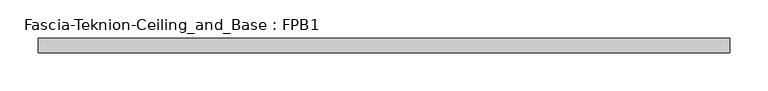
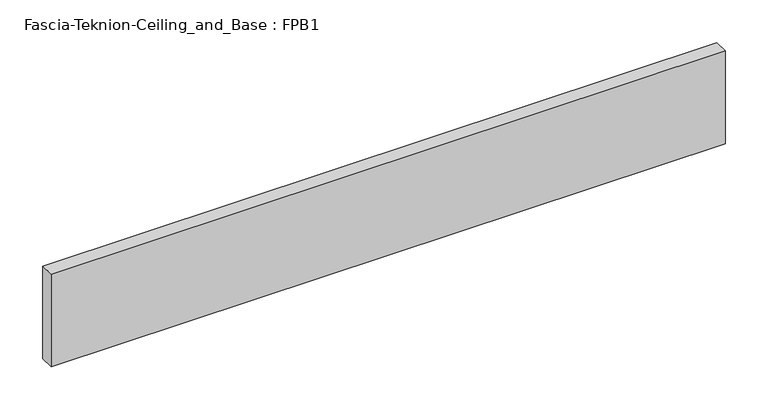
"""IFC4 building model written with IfcOpenShell, lengths in millimetres: proxy geometry, Fascia-Teknion-Ceiling_and_Base : FPB1."""

from ifc_helpers import new_model, si_unit, origin, origin_with_axes, place, context, project, spatial, polyline, outline, extrude, source, transform, mapped, element, save


def fascia_teknion_ceiling_and_base_fpb1_816009f4(model_context):
    return source(origin(), model_context, "Body", "SweptSolid", [
        extrude(outline(polyline([(454.0305563, 0.0), (-454.0305562, 0.0), (-454.0305562, 19.05), (454.0305563, 19.05), (454.0305563, 0.0)])), origin_with_axes(), (0.0, 0.0, 1.0), 132.08),
    ])


if __name__ == "__main__":
    model = new_model("IFC4")
    model_context = context("Model", 3, world=origin())
    ifc_project = project(units=[si_unit("LENGTHUNIT", "METRE", prefix="MILLI")], contexts=[model_context])
    site = spatial("IfcSite", under=ifc_project)
    building = spatial("IfcBuilding", under=site)
    placement = place(None, origin())
    fascia_teknion_ceiling_and_base_fpb1_shape = fascia_teknion_ceiling_and_base_fpb1_816009f4(model_context)
    element("IfcBuildingElementProxy", 1, Name="Fascia-Teknion-Ceiling_and_Base : FPB1", ObjectType="Fascia-Teknion-Ceiling_and_Base : FPB1", at=placement, inside=building, context=model_context, shape_type="MappedRepresentation", body=[
        mapped(fascia_teknion_ceiling_and_base_fpb1_shape, transform((0.0, 0.0, 0.0), x_axis=(1.0, 0.0, 0.0), y_axis=(0.0, 1.0, 0.0), z_axis=(0.0, 0.0, 1.0))),
    ])
    save(model, "model.ifc")
